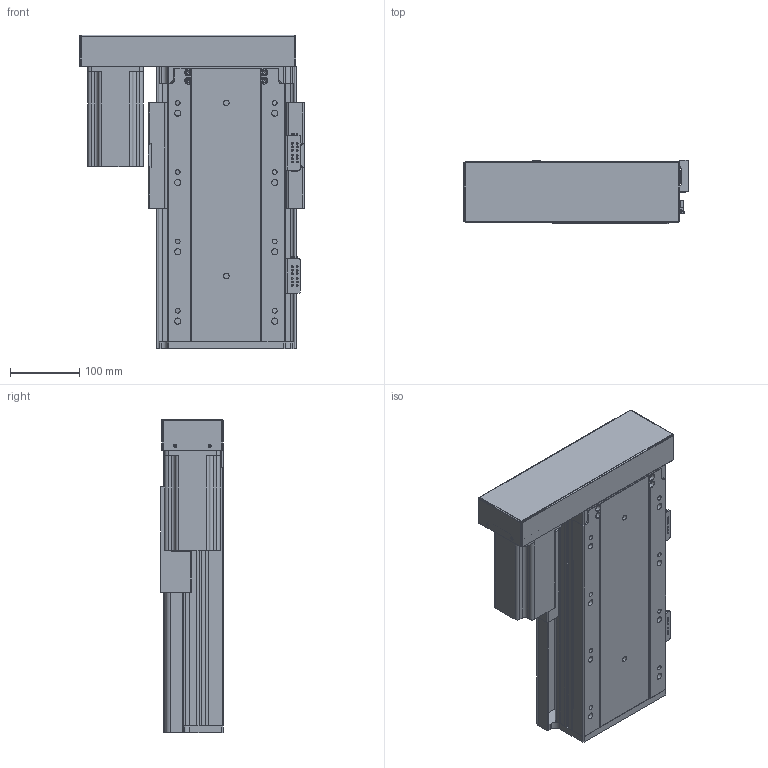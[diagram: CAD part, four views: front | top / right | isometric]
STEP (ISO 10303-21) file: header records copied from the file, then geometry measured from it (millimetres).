
FILE_DESCRIPTION (( 'STEP AP203' ), '1' );
FILE_NAME ('RY170FB-L2020-300-LK.SLDASM_150.step', '2021-02-23T03:02:17', ( '盈信电脑' ), ( '东莞市道滘镇水果街19号' ), 'SwSTEP 2.0', 'SolidWorks 2012', '' );
FILE_SCHEMA (( 'CONFIG_CONTROL_DESIGN' ));
Length unit declared in the file: millimetre
Products named in the file (16): RY170FB-L2020-300-LK.SLDASM_150; RY170FB-酘衵殏萇儂欶750W; RY140-674嫖萇耀輸; RY140FB-674嫖萇覜茼え; RY170FB-左右折电机安装板750W; RY140直线电机感应器674光电安装座; 覜茼ん674; RY170FB-铝滑块(25丝杆）; RY170FB-300蛌殏奻裔-LK_150; RY170FB-綴裔啣; 怢湛750W萇儂ㄗ80遺ㄘ; 滅袉蝶18-10; 滅袉蝶18-28; RY170FB-转折电机端支撑座(7002); RY170FB-300蛌殏倰第菁釱-LK_150
Assembly tree (18 placements, depth 3):
  RY170FB-L2020-300-LK.SLDASM_150
    RY170FB-300蛌殏倰第菁釱-LK_150
    滅袉蝶18-28
    滅袉蝶18-10
    RY170FB-转折电机端支撑座(7002)
    怢湛750W萇儂ㄗ80遺ㄘ
    RY170FB-铝滑块(25丝杆）
    RY170FB-綴裔啣
    RY170FB-300蛌殏奻裔-LK_150
    RY140-674嫖萇耀輸
      覜茼ん674  x2
      RY140直线电机感应器674光电安装座
    RY140-674嫖萇耀輸
      覜茼ん674
      RY140直线电机感应器674光电安装座
    RY140FB-674嫖萇覜茼え
    RY170FB-左右折电机安装板750W
    RY170FB-酘衵殏萇儂欶750W
Bounding box: 323.95 x 90.5 x 452.7 mm (x, y, z)
Volume: 4021244 mm3; surface area: 1080084.6 mm2
Topology: 16 solids, 16 shells, 1413 faces, 3934 edges, 2510 vertices
Faces by surface type: cylinder 701, plane 584, cone 120, bspline 8
Entity records: 43399 total; most frequent: CARTESIAN_POINT 9657, ORIENTED_EDGE 6680, DIRECTION 6672, EDGE_CURVE 3340, AXIS2_PLACEMENT_3D 2407, VERTEX_POINT 2190, LINE 1858, VECTOR 1858
